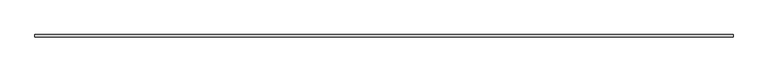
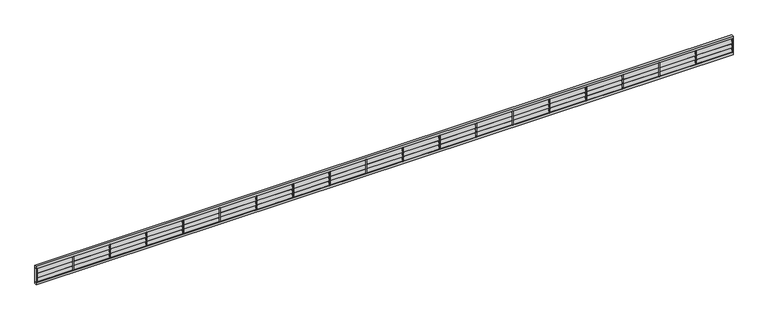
"""IFC4 building model written with IfcOpenShell, lengths in millimetres: furniture geometry, Mobiliário 27 : Mobiliário 25."""

from ifc_helpers import new_model, si_unit, frame, origin, place, context, project, spatial, polyline, outline, extrude, source, transform, mapped, element, save


def furniture_acc6336b(model_context):
    return source(origin(), model_context, "Body", "SweptSolid", [
        extrude(outline(polyline([(-20545.064618, 3954.9546621), (-20521.6934449, 3946.0783865), (-20522.2260214, 3944.6761161), (-20544.1949241, 3953.0198152), (-20614.1399762, 3768.8549714), (-20592.1710735, 3760.5112723), (-20592.70365, 3759.1090019), (-20616.0748231, 3767.9852776), (-20545.064618, 3954.9546621)])), frame((-32674.2352635, 0.0, 0.0), z_axis=(1.0, 0.0, 0.0), x_axis=(0.0, 1.0, 0.0)), (0.0, 0.0, 1.0), 1570.0),
        extrude(outline(polyline([(-20545.064618, 4154.4391535), (-20521.6934449, 4145.5628778), (-20522.2260214, 4144.1606075), (-20544.1949241, 4152.5043066), (-20614.1399762, 3968.3394628), (-20592.1710735, 3959.9957637), (-20592.70365, 3958.5934933), (-20616.0748231, 3967.4697689), (-20545.064618, 4154.4391535)])), frame((-32674.2352635, 0.0, 0.0), z_axis=(1.0, 0.0, 0.0), x_axis=(0.0, 1.0, 0.0)), (0.0, 0.0, 1.0), 1570.0),
        extrude(outline(polyline([(-20545.064618, 4353.9236449), (-20521.6934449, 4345.0473692), (-20522.2260214, 4343.6450988), (-20544.1949241, 4351.9887979), (-20614.1399762, 4167.8239541), (-20592.1710735, 4159.480255), (-20592.70365, 4158.0779846), (-20616.0748231, 4166.9542603), (-20545.064618, 4353.9236449)])), frame((-32674.2352635, 0.0, 0.0), z_axis=(1.0, 0.0, 0.0), x_axis=(0.0, 1.0, 0.0)), (0.0, 0.0, 1.0), 1570.0),
        extrude(outline(polyline([(-20545.064618, 3954.9546621), (-20521.6934449, 3946.0783865), (-20522.2260214, 3944.6761161), (-20544.1949241, 3953.0198152), (-20614.1399762, 3768.8549714), (-20592.1710735, 3760.5112723), (-20592.70365, 3759.1090019), (-20616.0748231, 3767.9852776), (-20545.064618, 3954.9546621)])), frame((-31066.2352635, 0.0, 0.0), z_axis=(1.0, 0.0, 0.0), x_axis=(0.0, 1.0, 0.0)), (0.0, 0.0, 1.0), 1568.0),
        extrude(outline(polyline([(-20545.064618, 4154.4391535), (-20521.6934449, 4145.5628778), (-20522.2260214, 4144.1606075), (-20544.1949241, 4152.5043066), (-20614.1399762, 3968.3394628), (-20592.1710735, 3959.9957637), (-20592.70365, 3958.5934933), (-20616.0748231, 3967.4697689), (-20545.064618, 4154.4391535)])), frame((-31066.2352635, 0.0, 0.0), z_axis=(1.0, 0.0, 0.0), x_axis=(0.0, 1.0, 0.0)), (0.0, 0.0, 1.0), 1568.0),
        extrude(outline(polyline([(-20545.064618, 4353.9236449), (-20521.6934449, 4345.0473692), (-20522.2260214, 4343.6450988), (-20544.1949241, 4351.9887979), (-20614.1399762, 4167.8239541), (-20592.1710735, 4159.480255), (-20592.70365, 4158.0779846), (-20616.0748231, 4166.9542603), (-20545.064618, 4353.9236449)])), frame((-31066.2352635, 0.0, 0.0), z_axis=(1.0, 0.0, 0.0), x_axis=(0.0, 1.0, 0.0)), (0.0, 0.0, 1.0), 1568.0),
        extrude(outline(polyline([(-34324.2352635, -20518.3222718), (-34284.2352635, -20518.3222718), (-34284.2352635, -20618.3222718), (-34324.2352635, -20618.3222718), (-34324.2352635, -20518.3222718)])), frame((0.0, 0.0, 3744.9499823), z_axis=(0.0, 0.0, 1.0), x_axis=(1.0, 0.0, 0.0)), (0.0, 0.0, 1.0), 650.0),
        extrude(outline(polyline([(-20545.064618, 3954.9546621), (-20521.6934449, 3946.0783865), (-20522.2260214, 3944.6761161), (-20544.1949241, 3953.0198152), (-20614.1399762, 3768.8549714), (-20592.1710735, 3760.5112723), (-20592.70365, 3759.1090019), (-20616.0748231, 3767.9852776), (-20545.064618, 3954.9546621)])), frame((-34284.2352635, 0.0, 0.0), z_axis=(1.0, 0.0, 0.0), x_axis=(0.0, 1.0, 0.0)), (0.0, 0.0, 1.0), 1570.0),
        extrude(outline(polyline([(-20545.064618, 4154.4391535), (-20521.6934449, 4145.5628778), (-20522.2260214, 4144.1606075), (-20544.1949241, 4152.5043066), (-20614.1399762, 3968.3394628), (-20592.1710735, 3959.9957637), (-20592.70365, 3958.5934933), (-20616.0748231, 3967.4697689), (-20545.064618, 4154.4391535)])), frame((-34284.2352635, 0.0, 0.0), z_axis=(1.0, 0.0, 0.0), x_axis=(0.0, 1.0, 0.0)), (0.0, 0.0, 1.0), 1570.0),
        extrude(outline(polyline([(-20545.064618, 4353.9236449), (-20521.6934449, 4345.0473692), (-20522.2260214, 4343.6450988), (-20544.1949241, 4351.9887979), (-20614.1399762, 4167.8239541), (-20592.1710735, 4159.480255), (-20592.70365, 4158.0779846), (-20616.0748231, 4166.9542603), (-20545.064618, 4353.9236449)])), frame((-34284.2352635, 0.0, 0.0), z_axis=(1.0, 0.0, 0.0), x_axis=(0.0, 1.0, 0.0)), (0.0, 0.0, 1.0), 1570.0),
        extrude(outline(polyline([(-32714.2352635, -20518.3222718), (-32674.2352635, -20518.3222718), (-32674.2352635, -20618.3222718), (-32714.2352635, -20618.3222718), (-32714.2352635, -20518.3222718)])), frame((0.0, 0.0, 3744.9499823), z_axis=(0.0, 0.0, 1.0), x_axis=(1.0, 0.0, 0.0)), (0.0, 0.0, 1.0), 650.0),
        extrude(outline(polyline([(-31104.2352635, -20518.3222718), (-31064.2352635, -20518.3222718), (-31064.2352635, -20618.3222718), (-31104.2352635, -20618.3222718), (-31104.2352635, -20518.3222718)])), frame((0.0, 0.0, 3744.9499823), z_axis=(0.0, 0.0, 1.0), x_axis=(1.0, 0.0, 0.0)), (0.0, 0.0, 1.0), 650.0),
        extrude(outline(polyline([(-20545.064618, 3954.9546621), (-20521.6934449, 3946.0783865), (-20522.2260214, 3944.6761161), (-20544.1949241, 3953.0198152), (-20614.1399762, 3768.8549714), (-20592.1710735, 3760.5112723), (-20592.70365, 3759.1090019), (-20616.0748231, 3767.9852776), (-20545.064618, 3954.9546621)])), frame((-29458.2352635, 0.0, 0.0), z_axis=(1.0, 0.0, 0.0), x_axis=(0.0, 1.0, 0.0)), (0.0, 0.0, 1.0), 1570.0),
        extrude(outline(polyline([(-20545.064618, 4154.4391535), (-20521.6934449, 4145.5628778), (-20522.2260214, 4144.1606075), (-20544.1949241, 4152.5043066), (-20614.1399762, 3968.3394628), (-20592.1710735, 3959.9957637), (-20592.70365, 3958.5934933), (-20616.0748231, 3967.4697689), (-20545.064618, 4154.4391535)])), frame((-29458.2352635, 0.0, 0.0), z_axis=(1.0, 0.0, 0.0), x_axis=(0.0, 1.0, 0.0)), (0.0, 0.0, 1.0), 1570.0),
        extrude(outline(polyline([(-20545.064618, 4353.9236449), (-20521.6934449, 4345.0473692), (-20522.2260214, 4343.6450988), (-20544.1949241, 4351.9887979), (-20614.1399762, 4167.8239541), (-20592.1710735, 4159.480255), (-20592.70365, 4158.0779846), (-20616.0748231, 4166.9542603), (-20545.064618, 4353.9236449)])), frame((-29458.2352635, 0.0, 0.0), z_axis=(1.0, 0.0, 0.0), x_axis=(0.0, 1.0, 0.0)), (0.0, 0.0, 1.0), 1570.0),
        extrude(outline(polyline([(-20545.064618, 3954.9546621), (-20521.6934449, 3946.0783865), (-20522.2260214, 3944.6761161), (-20544.1949241, 3953.0198152), (-20614.1399762, 3768.8549714), (-20592.1710735, 3760.5112723), (-20592.70365, 3759.1090019), (-20616.0748231, 3767.9852776), (-20545.064618, 3954.9546621)])), frame((-27848.2352635, 0.0, 0.0), z_axis=(1.0, 0.0, 0.0), x_axis=(0.0, 1.0, 0.0)), (0.0, 0.0, 1.0), 1570.0),
        extrude(outline(polyline([(-20545.064618, 4154.4391535), (-20521.6934449, 4145.5628778), (-20522.2260214, 4144.1606075), (-20544.1949241, 4152.5043066), (-20614.1399762, 3968.3394628), (-20592.1710735, 3959.9957637), (-20592.70365, 3958.5934933), (-20616.0748231, 3967.4697689), (-20545.064618, 4154.4391535)])), frame((-27848.2352635, 0.0, 0.0), z_axis=(1.0, 0.0, 0.0), x_axis=(0.0, 1.0, 0.0)), (0.0, 0.0, 1.0), 1570.0),
        extrude(outline(polyline([(-20545.064618, 4353.9236449), (-20521.6934449, 4345.0473692), (-20522.2260214, 4343.6450988), (-20544.1949241, 4351.9887979), (-20614.1399762, 4167.8239541), (-20592.1710735, 4159.480255), (-20592.70365, 4158.0779846), (-20616.0748231, 4166.9542603), (-20545.064618, 4353.9236449)])), frame((-27848.2352635, 0.0, 0.0), z_axis=(1.0, 0.0, 0.0), x_axis=(0.0, 1.0, 0.0)), (0.0, 0.0, 1.0), 1570.0),
        extrude(outline(polyline([(-20545.064618, 3954.9546621), (-20521.6934449, 3946.0783865), (-20522.2260214, 3944.6761161), (-20544.1949241, 3953.0198152), (-20614.1399762, 3768.8549714), (-20592.1710735, 3760.5112723), (-20592.70365, 3759.1090019), (-20616.0748231, 3767.9852776), (-20545.064618, 3954.9546621)])), frame((-24628.2352635, 0.0, 0.0), z_axis=(1.0, 0.0, 0.0), x_axis=(0.0, 1.0, 0.0)), (0.0, 0.0, 1.0), 1570.0),
        extrude(outline(polyline([(-20545.064618, 4154.4391535), (-20521.6934449, 4145.5628778), (-20522.2260214, 4144.1606075), (-20544.1949241, 4152.5043066), (-20614.1399762, 3968.3394628), (-20592.1710735, 3959.9957637), (-20592.70365, 3958.5934933), (-20616.0748231, 3967.4697689), (-20545.064618, 4154.4391535)])), frame((-24628.2352635, 0.0, 0.0), z_axis=(1.0, 0.0, 0.0), x_axis=(0.0, 1.0, 0.0)), (0.0, 0.0, 1.0), 1570.0),
        extrude(outline(polyline([(-20545.064618, 4353.9236449), (-20521.6934449, 4345.0473692), (-20522.2260214, 4343.6450988), (-20544.1949241, 4351.9887979), (-20614.1399762, 4167.8239541), (-20592.1710735, 4159.480255), (-20592.70365, 4158.0779846), (-20616.0748231, 4166.9542603), (-20545.064618, 4353.9236449)])), frame((-24628.2352635, 0.0, 0.0), z_axis=(1.0, 0.0, 0.0), x_axis=(0.0, 1.0, 0.0)), (0.0, 0.0, 1.0), 1570.0),
        extrude(outline(polyline([(-20545.064618, 3954.9546621), (-20521.6934449, 3946.0783865), (-20522.2260214, 3944.6761161), (-20544.1949241, 3953.0198152), (-20614.1399762, 3768.8549714), (-20592.1710735, 3760.5112723), (-20592.70365, 3759.1090019), (-20616.0748231, 3767.9852776), (-20545.064618, 3954.9546621)])), frame((-23020.2352635, 0.0, 0.0), z_axis=(1.0, 0.0, 0.0), x_axis=(0.0, 1.0, 0.0)), (0.0, 0.0, 1.0), 1568.0),
        extrude(outline(polyline([(-20545.064618, 4154.4391535), (-20521.6934449, 4145.5628778), (-20522.2260214, 4144.1606075), (-20544.1949241, 4152.5043066), (-20614.1399762, 3968.3394628), (-20592.1710735, 3959.9957637), (-20592.70365, 3958.5934933), (-20616.0748231, 3967.4697689), (-20545.064618, 4154.4391535)])), frame((-23020.2352635, 0.0, 0.0), z_axis=(1.0, 0.0, 0.0), x_axis=(0.0, 1.0, 0.0)), (0.0, 0.0, 1.0), 1568.0),
        extrude(outline(polyline([(-20545.064618, 4353.9236449), (-20521.6934449, 4345.0473692), (-20522.2260214, 4343.6450988), (-20544.1949241, 4351.9887979), (-20614.1399762, 4167.8239541), (-20592.1710735, 4159.480255), (-20592.70365, 4158.0779846), (-20616.0748231, 4166.9542603), (-20545.064618, 4353.9236449)])), frame((-23020.2352635, 0.0, 0.0), z_axis=(1.0, 0.0, 0.0), x_axis=(0.0, 1.0, 0.0)), (0.0, 0.0, 1.0), 1568.0),
        extrude(outline(polyline([(-29498.2352635, -20518.3222718), (-29458.2352635, -20518.3222718), (-29458.2352635, -20618.3222718), (-29498.2352635, -20618.3222718), (-29498.2352635, -20518.3222718)])), frame((0.0, 0.0, 3744.9499823), z_axis=(0.0, 0.0, 1.0), x_axis=(1.0, 0.0, 0.0)), (0.0, 0.0, 1.0), 650.0),
        extrude(outline(polyline([(-27888.2352635, -20518.3222718), (-27848.2352635, -20518.3222718), (-27848.2352635, -20618.3222718), (-27888.2352635, -20618.3222718), (-27888.2352635, -20518.3222718)])), frame((0.0, 0.0, 3744.9499823), z_axis=(0.0, 0.0, 1.0), x_axis=(1.0, 0.0, 0.0)), (0.0, 0.0, 1.0), 650.0),
        extrude(outline(polyline([(-26278.2352635, -20518.3222718), (-26238.2352635, -20518.3222718), (-26238.2352635, -20618.3222718), (-26278.2352635, -20618.3222718), (-26278.2352635, -20518.3222718)])), frame((0.0, 0.0, 3744.9499823), z_axis=(0.0, 0.0, 1.0), x_axis=(1.0, 0.0, 0.0)), (0.0, 0.0, 1.0), 650.0),
        extrude(outline(polyline([(-20545.064618, 3954.9546621), (-20521.6934449, 3946.0783865), (-20522.2260214, 3944.6761161), (-20544.1949241, 3953.0198152), (-20614.1399762, 3768.8549714), (-20592.1710735, 3760.5112723), (-20592.70365, 3759.1090019), (-20616.0748231, 3767.9852776), (-20545.064618, 3954.9546621)])), frame((-26238.2352635, 0.0, 0.0), z_axis=(1.0, 0.0, 0.0), x_axis=(0.0, 1.0, 0.0)), (0.0, 0.0, 1.0), 1570.0),
        extrude(outline(polyline([(-20545.064618, 4154.4391535), (-20521.6934449, 4145.5628778), (-20522.2260214, 4144.1606075), (-20544.1949241, 4152.5043066), (-20614.1399762, 3968.3394628), (-20592.1710735, 3959.9957637), (-20592.70365, 3958.5934933), (-20616.0748231, 3967.4697689), (-20545.064618, 4154.4391535)])), frame((-26238.2352635, 0.0, 0.0), z_axis=(1.0, 0.0, 0.0), x_axis=(0.0, 1.0, 0.0)), (0.0, 0.0, 1.0), 1570.0),
        extrude(outline(polyline([(-20545.064618, 4353.9236449), (-20521.6934449, 4345.0473692), (-20522.2260214, 4343.6450988), (-20544.1949241, 4351.9887979), (-20614.1399762, 4167.8239541), (-20592.1710735, 4159.480255), (-20592.70365, 4158.0779846), (-20616.0748231, 4166.9542603), (-20545.064618, 4353.9236449)])), frame((-26238.2352635, 0.0, 0.0), z_axis=(1.0, 0.0, 0.0), x_axis=(0.0, 1.0, 0.0)), (0.0, 0.0, 1.0), 1570.0),
        extrude(outline(polyline([(-24668.2352635, -20518.3222718), (-24628.2352635, -20518.3222718), (-24628.2352635, -20618.3222718), (-24668.2352635, -20618.3222718), (-24668.2352635, -20518.3222718)])), frame((0.0, 0.0, 3744.9499823), z_axis=(0.0, 0.0, 1.0), x_axis=(1.0, 0.0, 0.0)), (0.0, 0.0, 1.0), 650.0),
        extrude(outline(polyline([(-23058.2352635, -20518.3222718), (-23018.2352635, -20518.3222718), (-23018.2352635, -20618.3222718), (-23058.2352635, -20618.3222718), (-23058.2352635, -20518.3222718)])), frame((0.0, 0.0, 3744.9499823), z_axis=(0.0, 0.0, 1.0), x_axis=(1.0, 0.0, 0.0)), (0.0, 0.0, 1.0), 650.0),
        extrude(outline(polyline([(-20545.064618, 3954.9546621), (-20521.6934449, 3946.0783865), (-20522.2260214, 3944.6761161), (-20544.1949241, 3953.0198152), (-20614.1399762, 3768.8549714), (-20592.1710735, 3760.5112723), (-20592.70365, 3759.1090019), (-20616.0748231, 3767.9852776), (-20545.064618, 3954.9546621)])), frame((-21412.2352635, 0.0, 0.0), z_axis=(1.0, 0.0, 0.0), x_axis=(0.0, 1.0, 0.0)), (0.0, 0.0, 1.0), 1570.0),
        extrude(outline(polyline([(-20545.064618, 4154.4391535), (-20521.6934449, 4145.5628778), (-20522.2260214, 4144.1606075), (-20544.1949241, 4152.5043066), (-20614.1399762, 3968.3394628), (-20592.1710735, 3959.9957637), (-20592.70365, 3958.5934933), (-20616.0748231, 3967.4697689), (-20545.064618, 4154.4391535)])), frame((-21412.2352635, 0.0, 0.0), z_axis=(1.0, 0.0, 0.0), x_axis=(0.0, 1.0, 0.0)), (0.0, 0.0, 1.0), 1570.0),
        extrude(outline(polyline([(-20545.064618, 4353.9236449), (-20521.6934449, 4345.0473692), (-20522.2260214, 4343.6450988), (-20544.1949241, 4351.9887979), (-20614.1399762, 4167.8239541), (-20592.1710735, 4159.480255), (-20592.70365, 4158.0779846), (-20616.0748231, 4166.9542603), (-20545.064618, 4353.9236449)])), frame((-21412.2352635, 0.0, 0.0), z_axis=(1.0, 0.0, 0.0), x_axis=(0.0, 1.0, 0.0)), (0.0, 0.0, 1.0), 1570.0),
        extrude(outline(polyline([(-20545.064618, 3954.9546621), (-20521.6934449, 3946.0783865), (-20522.2260214, 3944.6761161), (-20544.1949241, 3953.0198152), (-20614.1399762, 3768.8549714), (-20592.1710735, 3760.5112723), (-20592.70365, 3759.1090019), (-20616.0748231, 3767.9852776), (-20545.064618, 3954.9546621)])), frame((-19802.2352635, 0.0, 0.0), z_axis=(1.0, 0.0, 0.0), x_axis=(0.0, 1.0, 0.0)), (0.0, 0.0, 1.0), 1570.0),
        extrude(outline(polyline([(-20545.064618, 4154.4391535), (-20521.6934449, 4145.5628778), (-20522.2260214, 4144.1606075), (-20544.1949241, 4152.5043066), (-20614.1399762, 3968.3394628), (-20592.1710735, 3959.9957637), (-20592.70365, 3958.5934933), (-20616.0748231, 3967.4697689), (-20545.064618, 4154.4391535)])), frame((-19802.2352635, 0.0, 0.0), z_axis=(1.0, 0.0, 0.0), x_axis=(0.0, 1.0, 0.0)), (0.0, 0.0, 1.0), 1570.0),
        extrude(outline(polyline([(-20545.064618, 4353.9236449), (-20521.6934449, 4345.0473692), (-20522.2260214, 4343.6450988), (-20544.1949241, 4351.9887979), (-20614.1399762, 4167.8239541), (-20592.1710735, 4159.480255), (-20592.70365, 4158.0779846), (-20616.0748231, 4166.9542603), (-20545.064618, 4353.9236449)])), frame((-19802.2352635, 0.0, 0.0), z_axis=(1.0, 0.0, 0.0), x_axis=(0.0, 1.0, 0.0)), (0.0, 0.0, 1.0), 1570.0),
        extrude(outline(polyline([(-20545.064618, 3954.9546621), (-20521.6934449, 3946.0783865), (-20522.2260214, 3944.6761161), (-20544.1949241, 3953.0198152), (-20614.1399762, 3768.8549714), (-20592.1710735, 3760.5112723), (-20592.70365, 3759.1090019), (-20616.0748231, 3767.9852776), (-20545.064618, 3954.9546621)])), frame((-16582.2352635, 0.0, 0.0), z_axis=(1.0, 0.0, 0.0), x_axis=(0.0, 1.0, 0.0)), (0.0, 0.0, 1.0), 1570.0),
        extrude(outline(polyline([(-20545.064618, 4154.4391535), (-20521.6934449, 4145.5628778), (-20522.2260214, 4144.1606075), (-20544.1949241, 4152.5043066), (-20614.1399762, 3968.3394628), (-20592.1710735, 3959.9957637), (-20592.70365, 3958.5934933), (-20616.0748231, 3967.4697689), (-20545.064618, 4154.4391535)])), frame((-16582.2352635, 0.0, 0.0), z_axis=(1.0, 0.0, 0.0), x_axis=(0.0, 1.0, 0.0)), (0.0, 0.0, 1.0), 1570.0),
        extrude(outline(polyline([(-20545.064618, 4353.9236449), (-20521.6934449, 4345.0473692), (-20522.2260214, 4343.6450988), (-20544.1949241, 4351.9887979), (-20614.1399762, 4167.8239541), (-20592.1710735, 4159.480255), (-20592.70365, 4158.0779846), (-20616.0748231, 4166.9542603), (-20545.064618, 4353.9236449)])), frame((-16582.2352635, 0.0, 0.0), z_axis=(1.0, 0.0, 0.0), x_axis=(0.0, 1.0, 0.0)), (0.0, 0.0, 1.0), 1570.0),
        extrude(outline(polyline([(-20545.064618, 3954.9546621), (-20521.6934449, 3946.0783865), (-20522.2260214, 3944.6761161), (-20544.1949241, 3953.0198152), (-20614.1399762, 3768.8549714), (-20592.1710735, 3760.5112723), (-20592.70365, 3759.1090019), (-20616.0748231, 3767.9852776), (-20545.064618, 3954.9546621)])), frame((-14974.2352635, 0.0, 0.0), z_axis=(1.0, 0.0, 0.0), x_axis=(0.0, 1.0, 0.0)), (0.0, 0.0, 1.0), 1568.0),
        extrude(outline(polyline([(-20545.064618, 4154.4391535), (-20521.6934449, 4145.5628778), (-20522.2260214, 4144.1606075), (-20544.1949241, 4152.5043066), (-20614.1399762, 3968.3394628), (-20592.1710735, 3959.9957637), (-20592.70365, 3958.5934933), (-20616.0748231, 3967.4697689), (-20545.064618, 4154.4391535)])), frame((-14974.2352635, 0.0, 0.0), z_axis=(1.0, 0.0, 0.0), x_axis=(0.0, 1.0, 0.0)), (0.0, 0.0, 1.0), 1568.0),
        extrude(outline(polyline([(-20545.064618, 4353.9236449), (-20521.6934449, 4345.0473692), (-20522.2260214, 4343.6450988), (-20544.1949241, 4351.9887979), (-20614.1399762, 4167.8239541), (-20592.1710735, 4159.480255), (-20592.70365, 4158.0779846), (-20616.0748231, 4166.9542603), (-20545.064618, 4353.9236449)])), frame((-14974.2352635, 0.0, 0.0), z_axis=(1.0, 0.0, 0.0), x_axis=(0.0, 1.0, 0.0)), (0.0, 0.0, 1.0), 1568.0),
        extrude(outline(polyline([(-21452.2352635, -20518.3222718), (-21412.2352635, -20518.3222718), (-21412.2352635, -20618.3222718), (-21452.2352635, -20618.3222718), (-21452.2352635, -20518.3222718)])), frame((0.0, 0.0, 3744.9499823), z_axis=(0.0, 0.0, 1.0), x_axis=(1.0, 0.0, 0.0)), (0.0, 0.0, 1.0), 650.0),
        extrude(outline(polyline([(-19842.2352635, -20518.3222718), (-19802.2352635, -20518.3222718), (-19802.2352635, -20618.3222718), (-19842.2352635, -20618.3222718), (-19842.2352635, -20518.3222718)])), frame((0.0, 0.0, 3744.9499823), z_axis=(0.0, 0.0, 1.0), x_axis=(1.0, 0.0, 0.0)), (0.0, 0.0, 1.0), 650.0),
        extrude(outline(polyline([(-18232.2352635, -20518.3222718), (-18192.2352635, -20518.3222718), (-18192.2352635, -20618.3222718), (-18232.2352635, -20618.3222718), (-18232.2352635, -20518.3222718)])), frame((0.0, 0.0, 3744.9499823), z_axis=(0.0, 0.0, 1.0), x_axis=(1.0, 0.0, 0.0)), (0.0, 0.0, 1.0), 650.0),
        extrude(outline(polyline([(-20545.064618, 3954.9546621), (-20521.6934449, 3946.0783865), (-20522.2260214, 3944.6761161), (-20544.1949241, 3953.0198152), (-20614.1399762, 3768.8549714), (-20592.1710735, 3760.5112723), (-20592.70365, 3759.1090019), (-20616.0748231, 3767.9852776), (-20545.064618, 3954.9546621)])), frame((-18192.2352635, 0.0, 0.0), z_axis=(1.0, 0.0, 0.0), x_axis=(0.0, 1.0, 0.0)), (0.0, 0.0, 1.0), 1570.0),
        extrude(outline(polyline([(-20545.064618, 4154.4391535), (-20521.6934449, 4145.5628778), (-20522.2260214, 4144.1606075), (-20544.1949241, 4152.5043066), (-20614.1399762, 3968.3394628), (-20592.1710735, 3959.9957637), (-20592.70365, 3958.5934933), (-20616.0748231, 3967.4697689), (-20545.064618, 4154.4391535)])), frame((-18192.2352635, 0.0, 0.0), z_axis=(1.0, 0.0, 0.0), x_axis=(0.0, 1.0, 0.0)), (0.0, 0.0, 1.0), 1570.0),
        extrude(outline(polyline([(-20545.064618, 4353.9236449), (-20521.6934449, 4345.0473692), (-20522.2260214, 4343.6450988), (-20544.1949241, 4351.9887979), (-20614.1399762, 4167.8239541), (-20592.1710735, 4159.480255), (-20592.70365, 4158.0779846), (-20616.0748231, 4166.9542603), (-20545.064618, 4353.9236449)])), frame((-18192.2352635, 0.0, 0.0), z_axis=(1.0, 0.0, 0.0), x_axis=(0.0, 1.0, 0.0)), (0.0, 0.0, 1.0), 1570.0),
        extrude(outline(polyline([(-16622.2352635, -20518.3222718), (-16582.2352635, -20518.3222718), (-16582.2352635, -20618.3222718), (-16622.2352635, -20618.3222718), (-16622.2352635, -20518.3222718)])), frame((0.0, 0.0, 3744.9499823), z_axis=(0.0, 0.0, 1.0), x_axis=(1.0, 0.0, 0.0)), (0.0, 0.0, 1.0), 650.0),
        extrude(outline(polyline([(-15012.2352635, -20518.3222718), (-14972.2352635, -20518.3222718), (-14972.2352635, -20618.3222718), (-15012.2352635, -20618.3222718), (-15012.2352635, -20518.3222718)])), frame((0.0, 0.0, 3744.9499823), z_axis=(0.0, 0.0, 1.0), x_axis=(1.0, 0.0, 0.0)), (0.0, 0.0, 1.0), 650.0),
        extrude(outline(polyline([(-20545.064618, 3954.9546621), (-20521.6934449, 3946.0783865), (-20522.2260214, 3944.6761161), (-20544.1949241, 3953.0198152), (-20614.1399762, 3768.8549714), (-20592.1710735, 3760.5112723), (-20592.70365, 3759.1090019), (-20616.0748231, 3767.9852776), (-20545.064618, 3954.9546621)])), frame((-13366.2352635, 0.0, 0.0), z_axis=(1.0, 0.0, 0.0), x_axis=(0.0, 1.0, 0.0)), (0.0, 0.0, 1.0), 1570.0),
        extrude(outline(polyline([(-20545.064618, 4154.4391535), (-20521.6934449, 4145.5628778), (-20522.2260214, 4144.1606075), (-20544.1949241, 4152.5043066), (-20614.1399762, 3968.3394628), (-20592.1710735, 3959.9957637), (-20592.70365, 3958.5934933), (-20616.0748231, 3967.4697689), (-20545.064618, 4154.4391535)])), frame((-13366.2352635, 0.0, 0.0), z_axis=(1.0, 0.0, 0.0), x_axis=(0.0, 1.0, 0.0)), (0.0, 0.0, 1.0), 1570.0),
        extrude(outline(polyline([(-20545.064618, 4353.9236449), (-20521.6934449, 4345.0473692), (-20522.2260214, 4343.6450988), (-20544.1949241, 4351.9887979), (-20614.1399762, 4167.8239541), (-20592.1710735, 4159.480255), (-20592.70365, 4158.0779846), (-20616.0748231, 4166.9542603), (-20545.064618, 4353.9236449)])), frame((-13366.2352635, 0.0, 0.0), z_axis=(1.0, 0.0, 0.0), x_axis=(0.0, 1.0, 0.0)), (0.0, 0.0, 1.0), 1570.0),
        extrude(outline(polyline([(-20545.064618, 3954.9546621), (-20521.6934449, 3946.0783865), (-20522.2260214, 3944.6761161), (-20544.1949241, 3953.0198152), (-20614.1399762, 3768.8549714), (-20592.1710735, 3760.5112723), (-20592.70365, 3759.1090019), (-20616.0748231, 3767.9852776), (-20545.064618, 3954.9546621)])), frame((-11756.2352635, 0.0, 0.0), z_axis=(1.0, 0.0, 0.0), x_axis=(0.0, 1.0, 0.0)), (0.0, 0.0, 1.0), 1570.0),
        extrude(outline(polyline([(-20545.064618, 4154.4391535), (-20521.6934449, 4145.5628778), (-20522.2260214, 4144.1606075), (-20544.1949241, 4152.5043066), (-20614.1399762, 3968.3394628), (-20592.1710735, 3959.9957637), (-20592.70365, 3958.5934933), (-20616.0748231, 3967.4697689), (-20545.064618, 4154.4391535)])), frame((-11756.2352635, 0.0, 0.0), z_axis=(1.0, 0.0, 0.0), x_axis=(0.0, 1.0, 0.0)), (0.0, 0.0, 1.0), 1570.0),
        extrude(outline(polyline([(-20545.064618, 4353.9236449), (-20521.6934449, 4345.0473692), (-20522.2260214, 4343.6450988), (-20544.1949241, 4351.9887979), (-20614.1399762, 4167.8239541), (-20592.1710735, 4159.480255), (-20592.70365, 4158.0779846), (-20616.0748231, 4166.9542603), (-20545.064618, 4353.9236449)])), frame((-11756.2352635, 0.0, 0.0), z_axis=(1.0, 0.0, 0.0), x_axis=(0.0, 1.0, 0.0)), (0.0, 0.0, 1.0), 1570.0),
        extrude(outline(polyline([(-20545.064618, 3954.9546621), (-20521.6934449, 3946.0783865), (-20522.2260214, 3944.6761161), (-20544.1949241, 3953.0198152), (-20614.1399762, 3768.8549714), (-20592.1710735, 3760.5112723), (-20592.70365, 3759.1090019), (-20616.0748231, 3767.9852776), (-20545.064618, 3954.9546621)])), frame((-8536.2352635, 0.0, 0.0), z_axis=(1.0, 0.0, 0.0), x_axis=(0.0, 1.0, 0.0)), (0.0, 0.0, 1.0), 1570.0),
        extrude(outline(polyline([(-20545.064618, 4154.4391535), (-20521.6934449, 4145.5628778), (-20522.2260214, 4144.1606075), (-20544.1949241, 4152.5043066), (-20614.1399762, 3968.3394628), (-20592.1710735, 3959.9957637), (-20592.70365, 3958.5934933), (-20616.0748231, 3967.4697689), (-20545.064618, 4154.4391535)])), frame((-8536.2352635, 0.0, 0.0), z_axis=(1.0, 0.0, 0.0), x_axis=(0.0, 1.0, 0.0)), (0.0, 0.0, 1.0), 1570.0),
        extrude(outline(polyline([(-20545.064618, 4353.9236449), (-20521.6934449, 4345.0473692), (-20522.2260214, 4343.6450988), (-20544.1949241, 4351.9887979), (-20614.1399762, 4167.8239541), (-20592.1710735, 4159.480255), (-20592.70365, 4158.0779846), (-20616.0748231, 4166.9542603), (-20545.064618, 4353.9236449)])), frame((-8536.2352635, 0.0, 0.0), z_axis=(1.0, 0.0, 0.0), x_axis=(0.0, 1.0, 0.0)), (0.0, 0.0, 1.0), 1570.0),
        extrude(outline(polyline([(-20545.064618, 3954.9546621), (-20521.6934449, 3946.0783865), (-20522.2260214, 3944.6761161), (-20544.1949241, 3953.0198152), (-20614.1399762, 3768.8549714), (-20592.1710735, 3760.5112723), (-20592.70365, 3759.1090019), (-20616.0748231, 3767.9852776), (-20545.064618, 3954.9546621)])), frame((-6928.2352635, 0.0, 0.0), z_axis=(1.0, 0.0, 0.0), x_axis=(0.0, 1.0, 0.0)), (0.0, 0.0, 1.0), 1568.0),
        extrude(outline(polyline([(-20545.064618, 4154.4391535), (-20521.6934449, 4145.5628778), (-20522.2260214, 4144.1606075), (-20544.1949241, 4152.5043066), (-20614.1399762, 3968.3394628), (-20592.1710735, 3959.9957637), (-20592.70365, 3958.5934933), (-20616.0748231, 3967.4697689), (-20545.064618, 4154.4391535)])), frame((-6928.2352635, 0.0, 0.0), z_axis=(1.0, 0.0, 0.0), x_axis=(0.0, 1.0, 0.0)), (0.0, 0.0, 1.0), 1568.0),
        extrude(outline(polyline([(-20545.064618, 4353.9236449), (-20521.6934449, 4345.0473692), (-20522.2260214, 4343.6450988), (-20544.1949241, 4351.9887979), (-20614.1399762, 4167.8239541), (-20592.1710735, 4159.480255), (-20592.70365, 4158.0779846), (-20616.0748231, 4166.9542603), (-20545.064618, 4353.9236449)])), frame((-6928.2352635, 0.0, 0.0), z_axis=(1.0, 0.0, 0.0), x_axis=(0.0, 1.0, 0.0)), (0.0, 0.0, 1.0), 1568.0),
        extrude(outline(polyline([(-13406.2352635, -20518.3222718), (-13366.2352635, -20518.3222718), (-13366.2352635, -20618.3222718), (-13406.2352635, -20618.3222718), (-13406.2352635, -20518.3222718)])), frame((0.0, 0.0, 3744.9499823), z_axis=(0.0, 0.0, 1.0), x_axis=(1.0, 0.0, 0.0)), (0.0, 0.0, 1.0), 650.0),
        extrude(outline(polyline([(-11796.2352635, -20518.3222718), (-11756.2352635, -20518.3222718), (-11756.2352635, -20618.3222718), (-11796.2352635, -20618.3222718), (-11796.2352635, -20518.3222718)])), frame((0.0, 0.0, 3744.9499823), z_axis=(0.0, 0.0, 1.0), x_axis=(1.0, 0.0, 0.0)), (0.0, 0.0, 1.0), 650.0),
        extrude(outline(polyline([(-10186.2352635, -20518.3222718), (-10146.2352635, -20518.3222718), (-10146.2352635, -20618.3222718), (-10186.2352635, -20618.3222718), (-10186.2352635, -20518.3222718)])), frame((0.0, 0.0, 3744.9499823), z_axis=(0.0, 0.0, 1.0), x_axis=(1.0, 0.0, 0.0)), (0.0, 0.0, 1.0), 650.0),
        extrude(outline(polyline([(-20545.064618, 3954.9546621), (-20521.6934449, 3946.0783865), (-20522.2260214, 3944.6761161), (-20544.1949241, 3953.0198152), (-20614.1399762, 3768.8549714), (-20592.1710735, 3760.5112723), (-20592.70365, 3759.1090019), (-20616.0748231, 3767.9852776), (-20545.064618, 3954.9546621)])), frame((-10146.2352635, 0.0, 0.0), z_axis=(1.0, 0.0, 0.0), x_axis=(0.0, 1.0, 0.0)), (0.0, 0.0, 1.0), 1570.0),
        extrude(outline(polyline([(-20545.064618, 4154.4391535), (-20521.6934449, 4145.5628778), (-20522.2260214, 4144.1606075), (-20544.1949241, 4152.5043066), (-20614.1399762, 3968.3394628), (-20592.1710735, 3959.9957637), (-20592.70365, 3958.5934933), (-20616.0748231, 3967.4697689), (-20545.064618, 4154.4391535)])), frame((-10146.2352635, 0.0, 0.0), z_axis=(1.0, 0.0, 0.0), x_axis=(0.0, 1.0, 0.0)), (0.0, 0.0, 1.0), 1570.0),
        extrude(outline(polyline([(-20545.064618, 4353.9236449), (-20521.6934449, 4345.0473692), (-20522.2260214, 4343.6450988), (-20544.1949241, 4351.9887979), (-20614.1399762, 4167.8239541), (-20592.1710735, 4159.480255), (-20592.70365, 4158.0779846), (-20616.0748231, 4166.9542603), (-20545.064618, 4353.9236449)])), frame((-10146.2352635, 0.0, 0.0), z_axis=(1.0, 0.0, 0.0), x_axis=(0.0, 1.0, 0.0)), (0.0, 0.0, 1.0), 1570.0),
        extrude(outline(polyline([(-8576.2352635, -20518.3222718), (-8536.2352635, -20518.3222718), (-8536.2352635, -20618.3222718), (-8576.2352635, -20618.3222718), (-8576.2352635, -20518.3222718)])), frame((0.0, 0.0, 3744.9499823), z_axis=(0.0, 0.0, 1.0), x_axis=(1.0, 0.0, 0.0)), (0.0, 0.0, 1.0), 650.0),
        extrude(outline(polyline([(-6966.2352635, -20518.3222718), (-6926.2352635, -20518.3222718), (-6926.2352635, -20618.3222718), (-6966.2352635, -20618.3222718), (-6966.2352635, -20518.3222718)])), frame((0.0, 0.0, 3744.9499823), z_axis=(0.0, 0.0, 1.0), x_axis=(1.0, 0.0, 0.0)), (0.0, 0.0, 1.0), 650.0),
        extrude(outline(polyline([(-5360.2352635, -20518.3222718), (-5320.2352635, -20518.3222718), (-5320.2352635, -20618.3222718), (-5360.2352635, -20618.3222718), (-5360.2352635, -20518.3222718)])), frame((0.0, 0.0, 3744.9499823), z_axis=(0.0, 0.0, 1.0), x_axis=(1.0, 0.0, 0.0)), (0.0, 0.0, 1.0), 650.0),
        extrude(outline(polyline([(-20545.064618, 3954.9546621), (-20521.6934449, 3946.0783865), (-20522.2260214, 3944.6761161), (-20544.1949241, 3953.0198152), (-20614.1399762, 3768.8549714), (-20592.1710735, 3760.5112723), (-20592.70365, 3759.1090019), (-20616.0748231, 3767.9852776), (-20545.064618, 3954.9546621)])), frame((-5320.2352635, 0.0, 0.0), z_axis=(1.0, 0.0, 0.0), x_axis=(0.0, 1.0, 0.0)), (0.0, 0.0, 1.0), 1570.0),
        extrude(outline(polyline([(-20545.064618, 4154.4391535), (-20521.6934449, 4145.5628778), (-20522.2260214, 4144.1606075), (-20544.1949241, 4152.5043066), (-20614.1399762, 3968.3394628), (-20592.1710735, 3959.9957637), (-20592.70365, 3958.5934933), (-20616.0748231, 3967.4697689), (-20545.064618, 4154.4391535)])), frame((-5320.2352635, 0.0, 0.0), z_axis=(1.0, 0.0, 0.0), x_axis=(0.0, 1.0, 0.0)), (0.0, 0.0, 1.0), 1570.0),
        extrude(outline(polyline([(-20545.064618, 4353.9236449), (-20521.6934449, 4345.0473692), (-20522.2260214, 4343.6450988), (-20544.1949241, 4351.9887979), (-20614.1399762, 4167.8239541), (-20592.1710735, 4159.480255), (-20592.70365, 4158.0779846), (-20616.0748231, 4166.9542603), (-20545.064618, 4353.9236449)])), frame((-5320.2352635, 0.0, 0.0), z_axis=(1.0, 0.0, 0.0), x_axis=(0.0, 1.0, 0.0)), (0.0, 0.0, 1.0), 1570.0),
        extrude(outline(polyline([(-3750.2352635, -20518.3222718), (-3710.2352635, -20518.3222718), (-3710.2352635, -20618.3222718), (-3750.2352635, -20618.3222718), (-3750.2352635, -20518.3222718)])), frame((0.0, 0.0, 3744.9499823), z_axis=(0.0, 0.0, 1.0), x_axis=(1.0, 0.0, 0.0)), (0.0, 0.0, 1.0), 650.0),
        extrude(outline(polyline([(-34324.2352635, -20518.3222718), (-3710.2352635, -20518.3222718), (-3710.2352635, -20618.3222718), (-34324.2352635, -20618.3222718), (-34324.2352635, -20518.3222718)])), frame((0.0, 0.0, 3644.9499823), z_axis=(0.0, 0.0, 1.0), x_axis=(1.0, 0.0, 0.0)), (0.0, 0.0, 1.0), 100.0),
        extrude(outline(polyline([(-34324.2352635, -20518.3222718), (-3710.2352635, -20518.3222718), (-3710.2352635, -20618.3222718), (-34324.2352635, -20618.3222718), (-34324.2352635, -20518.3222718)])), frame((0.0, 0.0, 4394.9499823), z_axis=(0.0, 0.0, 1.0), x_axis=(1.0, 0.0, 0.0)), (0.0, 0.0, 1.0), 100.0),
    ])


if __name__ == "__main__":
    model = new_model("IFC4")
    model_context = context("Model", 3, world=origin())
    ifc_project = project(units=[si_unit("LENGTHUNIT", "METRE", prefix="MILLI")], contexts=[model_context])
    site = spatial("IfcSite", under=ifc_project)
    building = spatial("IfcBuilding", under=site)
    placement = place(None, origin())
    furniture_shape = furniture_acc6336b(model_context)
    element("IfcFurniture", 1, ObjectType="Mobiliário 27 : Mobiliário 25", at=placement, inside=building, context=model_context, shape_type="MappedRepresentation", body=[
        mapped(furniture_shape, transform((0.0, 0.0, 0.0), x_axis=(1.0, 0.0, 0.0), y_axis=(0.0, 1.0, 0.0), z_axis=(0.0, 0.0, 1.0))),
    ])
    save(model, "model.ifc")
